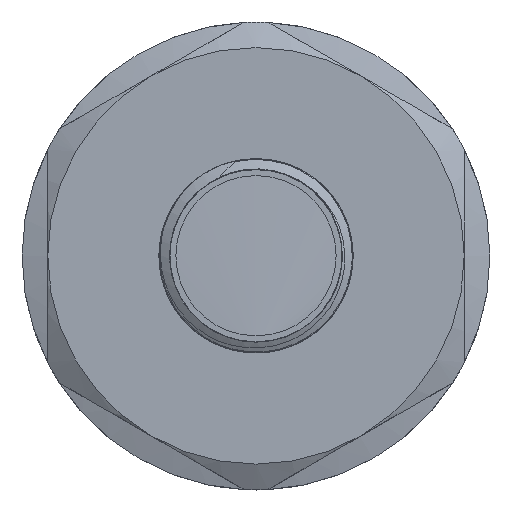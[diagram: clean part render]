
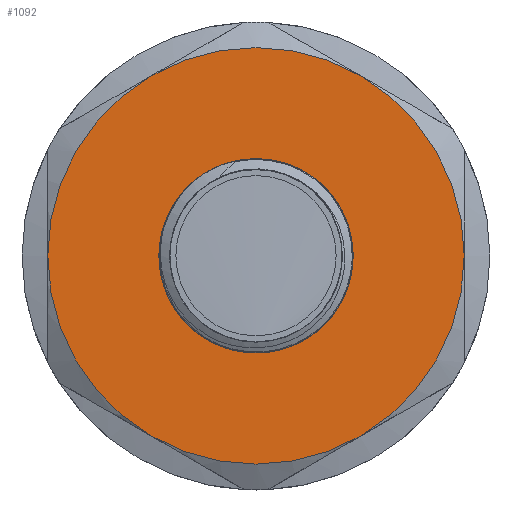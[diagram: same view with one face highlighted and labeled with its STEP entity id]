
A CAD part, top view. The second image highlights one B-rep face of the part: STEP entity #1092.
In plain terms, the highlighted planar face has unit normal (0, 0, 1).
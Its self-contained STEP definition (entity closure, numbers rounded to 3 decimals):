
#99=FACE_BOUND('',#293,.T.);
#201=PLANE('',#1202);
#229=FACE_OUTER_BOUND('',#292,.T.);
#292=EDGE_LOOP('',(#823,#824,#825,#826,#827,#828));
#293=EDGE_LOOP('',(#829,#830));
#344=CIRCLE('',#1159,32.5);
#346=CIRCLE('',#1162,32.5);
#348=CIRCLE('',#1165,32.5);
#349=CIRCLE('',#1167,32.5);
#352=CIRCLE('',#1171,32.5);
#354=CIRCLE('',#1174,32.5);
#364=CIRCLE('',#1188,13.433);
#367=CIRCLE('',#1191,13.433);
#417=VERTEX_POINT('',#1495);
#419=VERTEX_POINT('',#1501);
#421=VERTEX_POINT('',#1508);
#424=VERTEX_POINT('',#1520);
#427=VERTEX_POINT('',#1535);
#431=VERTEX_POINT('',#1549);
#451=VERTEX_POINT('',#1620);
#452=VERTEX_POINT('',#1621);
#538=EDGE_CURVE('',#417,#419,#344,.T.);
#542=EDGE_CURVE('',#421,#417,#346,.T.);
#546=EDGE_CURVE('',#424,#421,#348,.T.);
#548=EDGE_CURVE('',#427,#424,#349,.T.);
#553=EDGE_CURVE('',#431,#427,#352,.T.);
#557=EDGE_CURVE('',#419,#431,#354,.T.);
#585=EDGE_CURVE('',#451,#452,#364,.T.);
#589=EDGE_CURVE('',#452,#451,#367,.T.);
#823=ORIENTED_EDGE('',*,*,#557,.T.);
#824=ORIENTED_EDGE('',*,*,#553,.T.);
#825=ORIENTED_EDGE('',*,*,#548,.T.);
#826=ORIENTED_EDGE('',*,*,#546,.T.);
#827=ORIENTED_EDGE('',*,*,#542,.T.);
#828=ORIENTED_EDGE('',*,*,#538,.T.);
#829=ORIENTED_EDGE('',*,*,#585,.F.);
#830=ORIENTED_EDGE('',*,*,#589,.F.);
#1092=ADVANCED_FACE('',(#229,#99),#201,.T.);
#1159=AXIS2_PLACEMENT_3D('',#1505,#1263,#1264);
#1162=AXIS2_PLACEMENT_3D('',#1517,#1269,#1270);
#1165=AXIS2_PLACEMENT_3D('',#1529,#1275,#1276);
#1167=AXIS2_PLACEMENT_3D('',#1536,#1279,#1280);
#1171=AXIS2_PLACEMENT_3D('',#1550,#1287,#1288);
#1174=AXIS2_PLACEMENT_3D('',#1561,#1293,#1294);
#1188=AXIS2_PLACEMENT_3D('',#1622,#1334,#1335);
#1191=AXIS2_PLACEMENT_3D('',#1628,#1341,#1342);
#1202=AXIS2_PLACEMENT_3D('',#1667,#1363,#1364);
#1263=DIRECTION('center_axis',(0.,0.,1.));
#1264=DIRECTION('ref_axis',(0.,1.,0.));
#1269=DIRECTION('center_axis',(0.,0.,1.));
#1270=DIRECTION('ref_axis',(0.,1.,0.));
#1275=DIRECTION('center_axis',(0.,0.,1.));
#1276=DIRECTION('ref_axis',(0.,1.,0.));
#1279=DIRECTION('center_axis',(0.,0.,1.));
#1280=DIRECTION('ref_axis',(0.,1.,0.));
#1287=DIRECTION('center_axis',(0.,0.,1.));
#1288=DIRECTION('ref_axis',(0.,1.,0.));
#1293=DIRECTION('center_axis',(0.,0.,1.));
#1294=DIRECTION('ref_axis',(0.,1.,0.));
#1334=DIRECTION('center_axis',(0.,0.,1.));
#1335=DIRECTION('ref_axis',(1.,0.,0.));
#1341=DIRECTION('center_axis',(0.,0.,1.));
#1342=DIRECTION('ref_axis',(1.,0.,0.));
#1363=DIRECTION('center_axis',(0.,0.,1.));
#1364=DIRECTION('ref_axis',(1.,0.,0.));
#1495=CARTESIAN_POINT('',(-16.25,-28.146,21.));
#1501=CARTESIAN_POINT('',(16.25,-28.146,21.));
#1505=CARTESIAN_POINT('Origin',(0.,0.,21.));
#1508=CARTESIAN_POINT('',(-32.5,0.,21.));
#1517=CARTESIAN_POINT('Origin',(0.,0.,21.));
#1520=CARTESIAN_POINT('',(-16.25,28.146,21.));
#1529=CARTESIAN_POINT('Origin',(0.,0.,21.));
#1535=CARTESIAN_POINT('',(16.25,28.146,21.));
#1536=CARTESIAN_POINT('Origin',(0.,0.,21.));
#1549=CARTESIAN_POINT('',(32.5,0.,21.));
#1550=CARTESIAN_POINT('Origin',(0.,0.,21.));
#1561=CARTESIAN_POINT('Origin',(0.,0.,21.));
#1620=CARTESIAN_POINT('',(0.,13.433,21.));
#1621=CARTESIAN_POINT('',(0.,-13.433,21.));
#1622=CARTESIAN_POINT('Origin',(0.,0.,21.));
#1628=CARTESIAN_POINT('Origin',(0.,0.,21.));
#1667=CARTESIAN_POINT('Origin',(0.,-15.145,21.));
